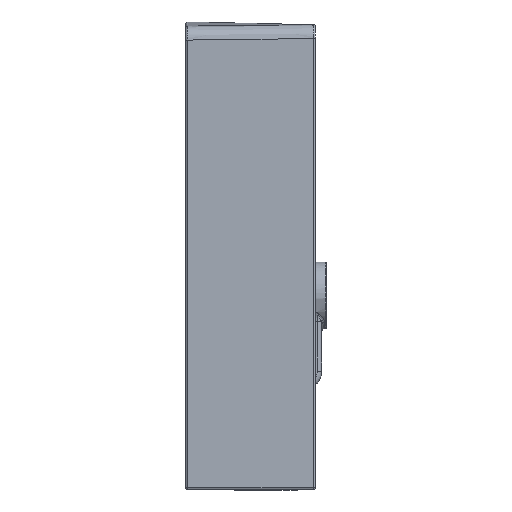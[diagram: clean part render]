
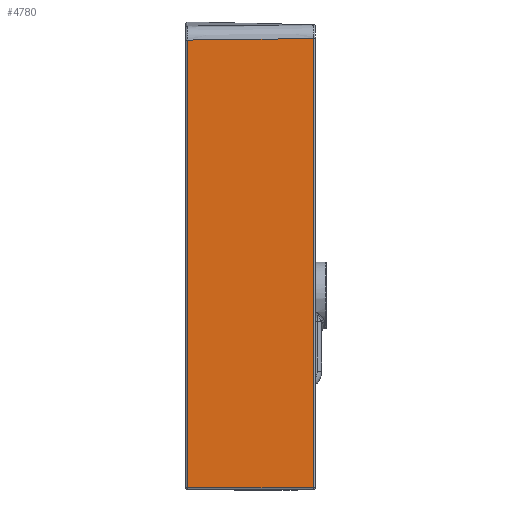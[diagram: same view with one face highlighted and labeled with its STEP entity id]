
A CAD part, left-side view. The second image highlights one B-rep face of the part: STEP entity #4780.
In plain terms, the highlighted planar face has unit normal (-1, -0.021, -0.003).
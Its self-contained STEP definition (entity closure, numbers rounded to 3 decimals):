
#665 = LINE ( 'NONE', #17164, #5231 ) ;
#3281 = EDGE_LOOP ( 'NONE', ( #35308, #8086, #25039, #10604 ) ) ;
#3580 = LINE ( 'NONE', #8412, #36096 ) ;
#4042 = VECTOR ( 'NONE', #5996, 1000. ) ;
#4108 = VERTEX_POINT ( 'NONE', #27385 ) ;
#4780 = ADVANCED_FACE ( 'NONE', ( #10478 ), #13611, .T. ) ;
#4944 = DIRECTION ( 'NONE',  ( -0.021, 1., 0. ) ) ;
#5231 = VECTOR ( 'NONE', #14556, 1000. ) ;
#5996 = DIRECTION ( 'NONE',  ( 0.021, -1., 0. ) ) ;
#7158 = CARTESIAN_POINT ( 'NONE',  ( -300.938, -24.236, 235.648 ) ) ;
#7445 = VERTEX_POINT ( 'NONE', #33633 ) ;
#7705 = CARTESIAN_POINT ( 'NONE',  ( -298.722, -127.808, 236.874 ) ) ;
#8086 = ORIENTED_EDGE ( 'NONE', *, *, #11793, .T. ) ;
#8412 = CARTESIAN_POINT ( 'NONE',  ( -299.945, -2.554, -250. ) ) ;
#9317 = CARTESIAN_POINT ( 'NONE',  ( -297.007, -140., -247.507 ) ) ;
#10433 = EDGE_CURVE ( 'NONE', #7445, #13808, #26358, .T. ) ;
#10463 = CARTESIAN_POINT ( 'NONE',  ( -297.06, -137.554, -247.507 ) ) ;
#10478 = FACE_OUTER_BOUND ( 'NONE', #3281, .T. ) ;
#10604 = ORIENTED_EDGE ( 'NONE', *, *, #33428, .T. ) ;
#10645 = CARTESIAN_POINT ( 'NONE',  ( -299.954, -70.22, 236.194 ) ) ;
#11793 = EDGE_CURVE ( 'NONE', #13808, #24066, #665, .T. ) ;
#13594 = CARTESIAN_POINT ( 'NONE',  ( -300.204, -58.505, 236.055 ) ) ;
#13611 = PLANE ( 'NONE',  #19983 ) ;
#13808 = VERTEX_POINT ( 'NONE', #10463 ) ;
#13811 = EDGE_CURVE ( 'NONE', #24066, #4108, #36569, .T. ) ;
#14556 = DIRECTION ( 'NONE',  ( -0.003, 0., 1. ) ) ;
#14860 = DIRECTION ( 'NONE',  ( 0.003, 0., -1. ) ) ;
#16375 = CARTESIAN_POINT ( 'NONE',  ( -298.513, -137.554, 236.988 ) ) ;
#17164 = CARTESIAN_POINT ( 'NONE',  ( -298.513, -137.554, 237.017 ) ) ;
#18423 = CARTESIAN_POINT ( 'NONE',  ( -301.17, -13.395, 235.519 ) ) ;
#18965 = CARTESIAN_POINT ( 'NONE',  ( -299.202, -105.363, 236.609 ) ) ;
#19983 = AXIS2_PLACEMENT_3D ( 'NONE', #33102, #36613, #4944 ) ;
#21202 = CARTESIAN_POINT ( 'NONE',  ( -299.578, -87.792, 236.402 ) ) ;
#21391 = CARTESIAN_POINT ( 'NONE',  ( -301.401, -2.554, 235.39 ) ) ;
#21576 = CARTESIAN_POINT ( 'NONE',  ( -300.706, -35.077, 235.777 ) ) ;
#24066 = VERTEX_POINT ( 'NONE', #30251 ) ;
#25039 = ORIENTED_EDGE ( 'NONE', *, *, #13811, .T. ) ;
#26358 = LINE ( 'NONE', #9317, #4042 ) ;
#27385 = CARTESIAN_POINT ( 'NONE',  ( -301.401, -2.554, 235.39 ) ) ;
#27690 = CARTESIAN_POINT ( 'NONE',  ( -298.618, -132.681, 236.931 ) ) ;
#30251 = CARTESIAN_POINT ( 'NONE',  ( -298.513, -137.554, 236.988 ) ) ;
#32534 = CARTESIAN_POINT ( 'NONE',  ( -300.455, -46.791, 235.916 ) ) ;
#32900 = CARTESIAN_POINT ( 'NONE',  ( -298.826, -122.935, 236.816 ) ) ;
#33102 = CARTESIAN_POINT ( 'NONE',  ( -297., -140., -250. ) ) ;
#33428 = EDGE_CURVE ( 'NONE', #4108, #7445, #3580, .T. ) ;
#33633 = CARTESIAN_POINT ( 'NONE',  ( -299.953, -2.554, -247.507 ) ) ;
#35308 = ORIENTED_EDGE ( 'NONE', *, *, #10433, .T. ) ;
#36096 = VECTOR ( 'NONE', #14860, 1000. ) ;
#36569 = B_SPLINE_CURVE_WITH_KNOTS ( 'NONE', 3,
 ( #16375, #27690, #7705, #32900, #18965, #21202, #10645, #13594, #32534, #21576, #7158, #18423, #21391 ),
 .UNSPECIFIED., .F., .F.,
 ( 4, 3, 3, 3, 4 ),
 ( 0.002, 0.017, 0.07, 0.105, 0.137 ),
 .UNSPECIFIED. ) ;
#36613 = DIRECTION ( 'NONE',  ( -1., -0.021, -0.003 ) ) ;
